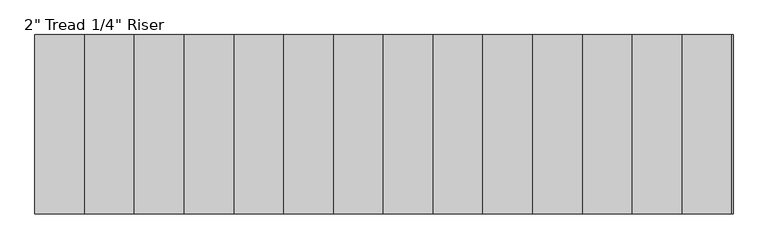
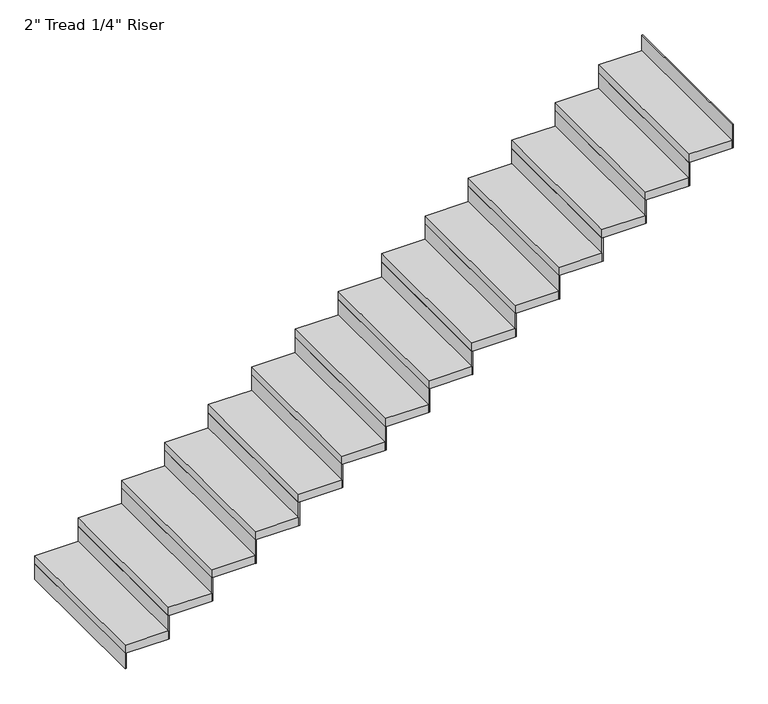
"""IFC4 building model written with IfcOpenShell, lengths in millimetres: stair flight geometry."""

from ifc_helpers import new_model, si_unit, frame, origin, origin_with_axes, place, context, project, spatial, polyline, outline, extrude, source, transform, mapped, element, save


def stair_flight_c7015294(model_context):
    return source(origin(), model_context, "Body", "SweptSolid", [
        extrude(outline(polyline([(157956.5711992, 15854.8539886), (157950.2211992, 15854.8539886), (157950.2211992, 16769.2539886), (157956.5711992, 16769.2539886), (157956.5711992, 15854.8539886)])), origin_with_axes(), (0.0, 0.0, 1.0), 94.3428571),
        extrude(outline(polyline([(158204.2211992, 16769.2539886), (158204.2211992, 15854.8539886), (157950.2211992, 15854.8539886), (157950.2211992, 16769.2539886), (158204.2211992, 16769.2539886)])), frame((0.0, 0.0, 94.3428571), z_axis=(0.0, 0.0, 1.0), x_axis=(1.0, 0.0, 0.0)), (0.0, 0.0, 1.0), 50.8),
        extrude(outline(polyline([(158210.5711992, 15854.8539886), (158204.2211992, 15854.8539886), (158204.2211992, 16769.2539886), (158210.5711992, 16769.2539886), (158210.5711992, 15854.8539886)])), frame((0.0, 0.0, 94.3428571), z_axis=(0.0, 0.0, 1.0), x_axis=(1.0, 0.0, 0.0)), (0.0, 0.0, 1.0), 145.1428571),
        extrude(outline(polyline([(158458.2211992, 16769.2539886), (158458.2211992, 15854.8539886), (158204.2211992, 15854.8539886), (158204.2211992, 16769.2539886), (158458.2211992, 16769.2539886)])), frame((0.0, 0.0, 239.4857143), z_axis=(0.0, 0.0, 1.0), x_axis=(1.0, 0.0, 0.0)), (0.0, 0.0, 1.0), 50.8),
        extrude(outline(polyline([(158464.5711992, 15854.8539886), (158458.2211992, 15854.8539886), (158458.2211992, 16769.2539886), (158464.5711992, 16769.2539886), (158464.5711992, 15854.8539886)])), frame((0.0, 0.0, 239.4857143), z_axis=(0.0, 0.0, 1.0), x_axis=(1.0, 0.0, 0.0)), (0.0, 0.0, 1.0), 145.1428571),
        extrude(outline(polyline([(158712.2211992, 16769.2539886), (158712.2211992, 15854.8539886), (158458.2211992, 15854.8539886), (158458.2211992, 16769.2539886), (158712.2211992, 16769.2539886)])), frame((0.0, 0.0, 384.6285714), z_axis=(0.0, 0.0, 1.0), x_axis=(1.0, 0.0, 0.0)), (0.0, 0.0, 1.0), 50.8),
        extrude(outline(polyline([(158718.5711992, 15854.8539886), (158712.2211992, 15854.8539886), (158712.2211992, 16769.2539886), (158718.5711992, 16769.2539886), (158718.5711992, 15854.8539886)])), frame((0.0, 0.0, 384.6285714), z_axis=(0.0, 0.0, 1.0), x_axis=(1.0, 0.0, 0.0)), (0.0, 0.0, 1.0), 145.1428571),
        extrude(outline(polyline([(158966.2211992, 16769.2539886), (158966.2211992, 15854.8539886), (158712.2211992, 15854.8539886), (158712.2211992, 16769.2539886), (158966.2211992, 16769.2539886)])), frame((0.0, 0.0, 529.7714286), z_axis=(0.0, 0.0, 1.0), x_axis=(1.0, 0.0, 0.0)), (0.0, 0.0, 1.0), 50.8),
        extrude(outline(polyline([(158972.5711992, 15854.8539886), (158966.2211992, 15854.8539886), (158966.2211992, 16769.2539886), (158972.5711992, 16769.2539886), (158972.5711992, 15854.8539886)])), frame((0.0, 0.0, 529.7714286), z_axis=(0.0, 0.0, 1.0), x_axis=(1.0, 0.0, 0.0)), (0.0, 0.0, 1.0), 145.1428571),
        extrude(outline(polyline([(159220.2211992, 16769.2539886), (159220.2211992, 15854.8539886), (158966.2211992, 15854.8539886), (158966.2211992, 16769.2539886), (159220.2211992, 16769.2539886)])), frame((0.0, 0.0, 674.9142857), z_axis=(0.0, 0.0, 1.0), x_axis=(1.0, 0.0, 0.0)), (0.0, 0.0, 1.0), 50.8),
        extrude(outline(polyline([(159226.5711992, 15854.8539886), (159220.2211992, 15854.8539886), (159220.2211992, 16769.2539886), (159226.5711992, 16769.2539886), (159226.5711992, 15854.8539886)])), frame((0.0, 0.0, 674.9142857), z_axis=(0.0, 0.0, 1.0), x_axis=(1.0, 0.0, 0.0)), (0.0, 0.0, 1.0), 145.1428571),
        extrude(outline(polyline([(159474.2211992, 16769.2539886), (159474.2211992, 15854.8539886), (159220.2211992, 15854.8539886), (159220.2211992, 16769.2539886), (159474.2211992, 16769.2539886)])), frame((0.0, 0.0, 820.0571429), z_axis=(0.0, 0.0, 1.0), x_axis=(1.0, 0.0, 0.0)), (0.0, 0.0, 1.0), 50.8),
        extrude(outline(polyline([(159480.5711992, 15854.8539886), (159474.2211992, 15854.8539886), (159474.2211992, 16769.2539886), (159480.5711992, 16769.2539886), (159480.5711992, 15854.8539886)])), frame((0.0, 0.0, 820.0571429), z_axis=(0.0, 0.0, 1.0), x_axis=(1.0, 0.0, 0.0)), (0.0, 0.0, 1.0), 145.1428571),
        extrude(outline(polyline([(159728.2211992, 16769.2539886), (159728.2211992, 15854.8539886), (159474.2211992, 15854.8539886), (159474.2211992, 16769.2539886), (159728.2211992, 16769.2539886)])), frame((0.0, 0.0, 965.2), z_axis=(0.0, 0.0, 1.0), x_axis=(1.0, 0.0, 0.0)), (0.0, 0.0, 1.0), 50.8),
        extrude(outline(polyline([(159734.5711992, 15854.8539886), (159728.2211992, 15854.8539886), (159728.2211992, 16769.2539886), (159734.5711992, 16769.2539886), (159734.5711992, 15854.8539886)])), frame((0.0, 0.0, 965.2), z_axis=(0.0, 0.0, 1.0), x_axis=(1.0, 0.0, 0.0)), (0.0, 0.0, 1.0), 145.1428571),
        extrude(outline(polyline([(159982.2211992, 16769.2539886), (159982.2211992, 15854.8539886), (159728.2211992, 15854.8539886), (159728.2211992, 16769.2539886), (159982.2211992, 16769.2539886)])), frame((0.0, 0.0, 1110.3428571), z_axis=(0.0, 0.0, 1.0), x_axis=(1.0, 0.0, 0.0)), (0.0, 0.0, 1.0), 50.8),
        extrude(outline(polyline([(159988.5711992, 15854.8539886), (159982.2211992, 15854.8539886), (159982.2211992, 16769.2539886), (159988.5711992, 16769.2539886), (159988.5711992, 15854.8539886)])), frame((0.0, 0.0, 1110.3428571), z_axis=(0.0, 0.0, 1.0), x_axis=(1.0, 0.0, 0.0)), (0.0, 0.0, 1.0), 145.1428571),
        extrude(outline(polyline([(160236.2211992, 16769.2539886), (160236.2211992, 15854.8539886), (159982.2211992, 15854.8539886), (159982.2211992, 16769.2539886), (160236.2211992, 16769.2539886)])), frame((0.0, 0.0, 1255.4857143), z_axis=(0.0, 0.0, 1.0), x_axis=(1.0, 0.0, 0.0)), (0.0, 0.0, 1.0), 50.8),
        extrude(outline(polyline([(160242.5711992, 15854.8539886), (160236.2211992, 15854.8539886), (160236.2211992, 16769.2539886), (160242.5711992, 16769.2539886), (160242.5711992, 15854.8539886)])), frame((0.0, 0.0, 1255.4857143), z_axis=(0.0, 0.0, 1.0), x_axis=(1.0, 0.0, 0.0)), (0.0, 0.0, 1.0), 145.1428571),
        extrude(outline(polyline([(160490.2211992, 16769.2539886), (160490.2211992, 15854.8539886), (160236.2211992, 15854.8539886), (160236.2211992, 16769.2539886), (160490.2211992, 16769.2539886)])), frame((0.0, 0.0, 1400.6285714), z_axis=(0.0, 0.0, 1.0), x_axis=(1.0, 0.0, 0.0)), (0.0, 0.0, 1.0), 50.8),
        extrude(outline(polyline([(160496.5711992, 15854.8539886), (160490.2211992, 15854.8539886), (160490.2211992, 16769.2539886), (160496.5711992, 16769.2539886), (160496.5711992, 15854.8539886)])), frame((0.0, 0.0, 1400.6285714), z_axis=(0.0, 0.0, 1.0), x_axis=(1.0, 0.0, 0.0)), (0.0, 0.0, 1.0), 145.1428571),
        extrude(outline(polyline([(160744.2211992, 16769.2539886), (160744.2211992, 15854.8539886), (160490.2211992, 15854.8539886), (160490.2211992, 16769.2539886), (160744.2211992, 16769.2539886)])), frame((0.0, 0.0, 1545.7714286), z_axis=(0.0, 0.0, 1.0), x_axis=(1.0, 0.0, 0.0)), (0.0, 0.0, 1.0), 50.8),
        extrude(outline(polyline([(160750.5711992, 15854.8539886), (160744.2211992, 15854.8539886), (160744.2211992, 16769.2539886), (160750.5711992, 16769.2539886), (160750.5711992, 15854.8539886)])), frame((0.0, 0.0, 1545.7714286), z_axis=(0.0, 0.0, 1.0), x_axis=(1.0, 0.0, 0.0)), (0.0, 0.0, 1.0), 145.1428571),
        extrude(outline(polyline([(160998.2211992, 16769.2539886), (160998.2211992, 15854.8539886), (160744.2211992, 15854.8539886), (160744.2211992, 16769.2539886), (160998.2211992, 16769.2539886)])), frame((0.0, 0.0, 1690.9142857), z_axis=(0.0, 0.0, 1.0), x_axis=(1.0, 0.0, 0.0)), (0.0, 0.0, 1.0), 50.8),
        extrude(outline(polyline([(161004.5711992, 15854.8539886), (160998.2211992, 15854.8539886), (160998.2211992, 16769.2539886), (161004.5711992, 16769.2539886), (161004.5711992, 15854.8539886)])), frame((0.0, 0.0, 1690.9142857), z_axis=(0.0, 0.0, 1.0), x_axis=(1.0, 0.0, 0.0)), (0.0, 0.0, 1.0), 145.1428571),
        extrude(outline(polyline([(161252.2211992, 16769.2539886), (161252.2211992, 15854.8539886), (160998.2211992, 15854.8539886), (160998.2211992, 16769.2539886), (161252.2211992, 16769.2539886)])), frame((0.0, 0.0, 1836.0571429), z_axis=(0.0, 0.0, 1.0), x_axis=(1.0, 0.0, 0.0)), (0.0, 0.0, 1.0), 50.8),
        extrude(outline(polyline([(161258.5711992, 15854.8539886), (161252.2211992, 15854.8539886), (161252.2211992, 16769.2539886), (161258.5711992, 16769.2539886), (161258.5711992, 15854.8539886)])), frame((0.0, 0.0, 1836.0571429), z_axis=(0.0, 0.0, 1.0), x_axis=(1.0, 0.0, 0.0)), (0.0, 0.0, 1.0), 145.1428571),
        extrude(outline(polyline([(161512.5711992, 15854.8539886), (161506.2211992, 15854.8539886), (161506.2211992, 16769.2539886), (161512.5711992, 16769.2539886), (161512.5711992, 15854.8539886)])), frame((0.0, 0.0, 1981.2), z_axis=(0.0, 0.0, 1.0), x_axis=(1.0, 0.0, 0.0)), (0.0, 0.0, 1.0), 145.1428571),
        extrude(outline(polyline([(161506.2211992, 16769.2539886), (161506.2211992, 15854.8539886), (161252.2211992, 15854.8539886), (161252.2211992, 16769.2539886), (161506.2211992, 16769.2539886)])), frame((0.0, 0.0, 1981.2), z_axis=(0.0, 0.0, 1.0), x_axis=(1.0, 0.0, 0.0)), (0.0, 0.0, 1.0), 50.8),
    ])


if __name__ == "__main__":
    model = new_model("IFC4")
    model_context = context("Model", 3, world=origin())
    ifc_project = project(units=[si_unit("LENGTHUNIT", "METRE", prefix="MILLI")], contexts=[model_context])
    site = spatial("IfcSite", under=ifc_project)
    building = spatial("IfcBuilding", under=site)
    placement = place(None, origin())
    stair_flight_shape = stair_flight_c7015294(model_context)
    element("IfcStairFlight", 1, ObjectType="2\" Tread 1/4\" Riser", at=placement, inside=building, context=model_context, shape_type="MappedRepresentation", body=[
        mapped(stair_flight_shape, transform((0.0, 0.0, 0.0), x_axis=(1.0, 0.0, 0.0), y_axis=(0.0, 1.0, 0.0), z_axis=(0.0, 0.0, 1.0))),
    ])
    save(model, "model.ifc")
